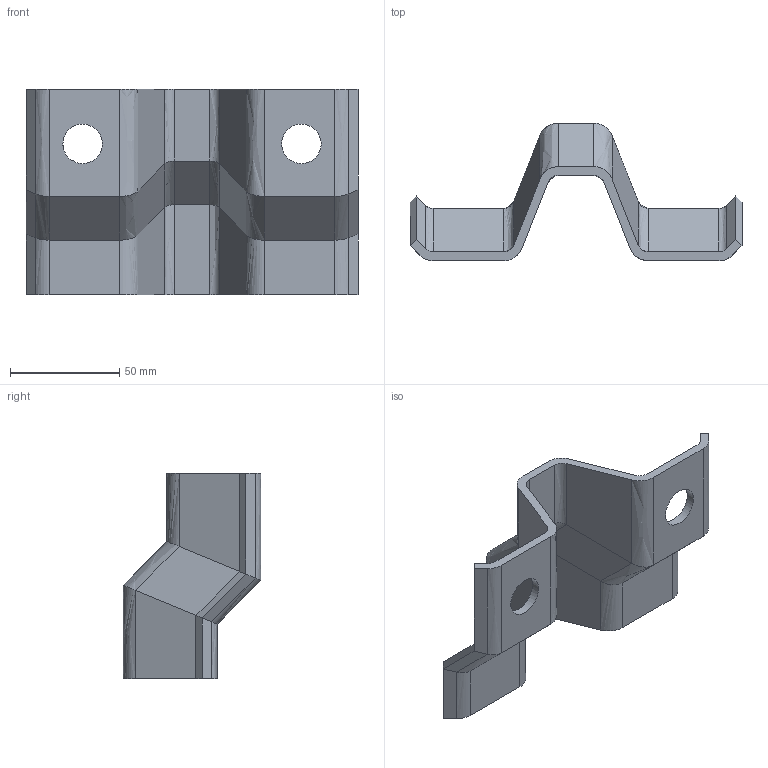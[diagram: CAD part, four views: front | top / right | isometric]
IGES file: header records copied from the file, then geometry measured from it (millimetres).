
Global section: file name: C125; native system: Autodesk RealDWG; preprocessor: Autodesk Translation Framework DWG producer (atf_dwg_producer); organization: unknown; date: 20230703.104144; units: centimetre
Bounding box: 151.72 x 63 x 94 mm (x, y, z)
Volume: 80535.6 mm3; surface area: 43155 mm2
Topology: 1 solids, 1 shells, 88 faces, 202 edges, 116 vertices
Faces by surface type: bspline 88
